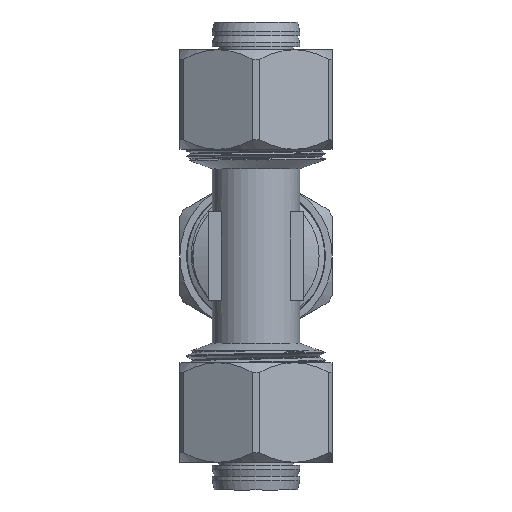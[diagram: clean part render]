
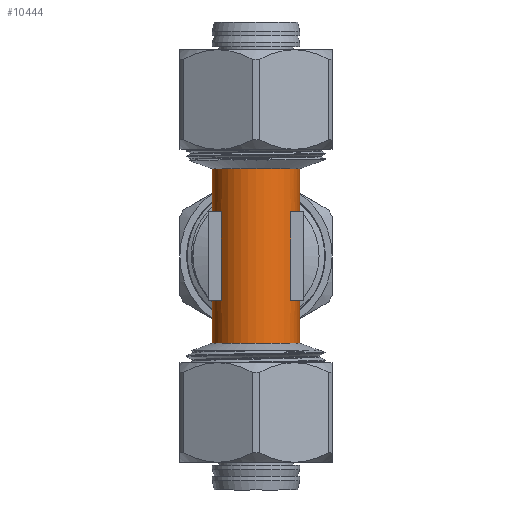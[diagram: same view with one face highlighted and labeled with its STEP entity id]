
A CAD part, front view. The second image highlights one B-rep face of the part: STEP entity #10444.
In plain terms, the highlighted cylindrical face has radius 7.9 mm (diameter 15.8 mm), a full revolution.
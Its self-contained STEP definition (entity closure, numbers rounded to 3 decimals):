
#1103=ELLIPSE('',#11165,11.172,7.9);
#1104=ELLIPSE('',#11166,11.172,7.9);
#1105=ELLIPSE('',#11167,11.172,7.9);
#1106=ELLIPSE('',#11168,11.172,7.9);
#1323=CYLINDRICAL_SURFACE('',#11183,7.9);
#1499=FACE_OUTER_BOUND('',#2108,.T.);
#2108=EDGE_LOOP('',(#7460,#7461,#7462,#7463,#7464,#7465,#7466,#7467,#7468,
#7469,#7470,#7471,#7472,#7473,#7474,#7475,#7476,#7477,#7478,#7479,#7480,
#7481,#7482));
#2791=LINE('',#14099,#3453);
#2796=LINE('',#14111,#3458);
#2805=LINE('',#14133,#3467);
#2808=LINE('',#14139,#3470);
#2815=LINE('',#14158,#3477);
#2818=LINE('',#14166,#3480);
#2839=LINE('',#14247,#3501);
#2840=LINE('',#14248,#3502);
#3453=VECTOR('',#11958,10.);
#3458=VECTOR('',#11969,10.);
#3467=VECTOR('',#11990,10.);
#3470=VECTOR('',#11995,10.);
#3477=VECTOR('',#12014,10.);
#3480=VECTOR('',#12021,10.);
#3501=VECTOR('',#12114,7.9);
#3502=VECTOR('',#12115,7.9);
#4012=CIRCLE('',#11067,7.9);
#4013=CIRCLE('',#11068,7.9);
#4018=CIRCLE('',#11074,7.9);
#4034=CIRCLE('',#11134,7.9);
#4035=CIRCLE('',#11136,7.9);
#4036=CIRCLE('',#11142,7.9);
#4037=CIRCLE('',#11144,7.9);
#4040=CIRCLE('',#11150,7.9);
#4041=CIRCLE('',#11152,7.9);
#4293=VERTEX_POINT('',#13689);
#4294=VERTEX_POINT('',#13690);
#4299=VERTEX_POINT('',#13703);
#4393=VERTEX_POINT('',#14097);
#4394=VERTEX_POINT('',#14098);
#4397=VERTEX_POINT('',#14109);
#4398=VERTEX_POINT('',#14110);
#4401=VERTEX_POINT('',#14118);
#4403=VERTEX_POINT('',#14124);
#4405=VERTEX_POINT('',#14132);
#4407=VERTEX_POINT('',#14138);
#4409=VERTEX_POINT('',#14145);
#4411=VERTEX_POINT('',#14151);
#4413=VERTEX_POINT('',#14157);
#4416=VERTEX_POINT('',#14165);
#4419=VERTEX_POINT('',#14173);
#4422=VERTEX_POINT('',#14181);
#4431=VERTEX_POINT('',#14214);
#4432=VERTEX_POINT('',#14217);
#5398=EDGE_CURVE('',#4293,#4294,#4012,.T.);
#5399=EDGE_CURVE('',#4294,#4293,#4013,.T.);
#5406=EDGE_CURVE('',#4299,#4299,#4018,.T.);
#5544=EDGE_CURVE('',#4393,#4394,#2791,.T.);
#5550=EDGE_CURVE('',#4397,#4398,#2796,.T.);
#5554=EDGE_CURVE('',#4401,#4393,#4034,.T.);
#5557=EDGE_CURVE('',#4398,#4403,#4035,.T.);
#5561=EDGE_CURVE('',#4405,#4401,#2805,.T.);
#5564=EDGE_CURVE('',#4403,#4407,#2808,.T.);
#5567=EDGE_CURVE('',#4409,#4405,#4036,.T.);
#5570=EDGE_CURVE('',#4407,#4411,#4037,.T.);
#5573=EDGE_CURVE('',#4413,#4409,#2815,.T.);
#5577=EDGE_CURVE('',#4411,#4416,#2818,.T.);
#5581=EDGE_CURVE('',#4419,#4397,#4040,.T.);
#5585=EDGE_CURVE('',#4394,#4422,#4041,.T.);
#5602=EDGE_CURVE('',#4416,#4431,#1103,.T.);
#5603=EDGE_CURVE('',#4432,#4419,#1104,.T.);
#5604=EDGE_CURVE('',#4422,#4432,#1105,.T.);
#5605=EDGE_CURVE('',#4431,#4413,#1106,.T.);
#5617=EDGE_CURVE('',#4299,#4431,#2839,.T.);
#5618=EDGE_CURVE('',#4432,#4294,#2840,.T.);
#7460=ORIENTED_EDGE('',*,*,#5406,.F.);
#7461=ORIENTED_EDGE('',*,*,#5617,.T.);
#7462=ORIENTED_EDGE('',*,*,#5605,.T.);
#7463=ORIENTED_EDGE('',*,*,#5573,.T.);
#7464=ORIENTED_EDGE('',*,*,#5567,.T.);
#7465=ORIENTED_EDGE('',*,*,#5561,.T.);
#7466=ORIENTED_EDGE('',*,*,#5554,.T.);
#7467=ORIENTED_EDGE('',*,*,#5544,.T.);
#7468=ORIENTED_EDGE('',*,*,#5585,.T.);
#7469=ORIENTED_EDGE('',*,*,#5604,.T.);
#7470=ORIENTED_EDGE('',*,*,#5618,.T.);
#7471=ORIENTED_EDGE('',*,*,#5399,.T.);
#7472=ORIENTED_EDGE('',*,*,#5398,.T.);
#7473=ORIENTED_EDGE('',*,*,#5618,.F.);
#7474=ORIENTED_EDGE('',*,*,#5603,.T.);
#7475=ORIENTED_EDGE('',*,*,#5581,.T.);
#7476=ORIENTED_EDGE('',*,*,#5550,.T.);
#7477=ORIENTED_EDGE('',*,*,#5557,.T.);
#7478=ORIENTED_EDGE('',*,*,#5564,.T.);
#7479=ORIENTED_EDGE('',*,*,#5570,.T.);
#7480=ORIENTED_EDGE('',*,*,#5577,.T.);
#7481=ORIENTED_EDGE('',*,*,#5602,.T.);
#7482=ORIENTED_EDGE('',*,*,#5617,.F.);
#10444=ADVANCED_FACE('',(#1499),#1323,.T.);
#11067=AXIS2_PLACEMENT_3D('',#13691,#11727,#11728);
#11068=AXIS2_PLACEMENT_3D('',#13692,#11729,#11730);
#11074=AXIS2_PLACEMENT_3D('',#13705,#11743,#11744);
#11134=AXIS2_PLACEMENT_3D('',#14119,#11975,#11976);
#11136=AXIS2_PLACEMENT_3D('',#14125,#11981,#11982);
#11142=AXIS2_PLACEMENT_3D('',#14146,#12002,#12003);
#11144=AXIS2_PLACEMENT_3D('',#14152,#12008,#12009);
#11150=AXIS2_PLACEMENT_3D('',#14174,#12028,#12029);
#11152=AXIS2_PLACEMENT_3D('',#14182,#12035,#12036);
#11165=AXIS2_PLACEMENT_3D('',#14216,#12073,#12074);
#11166=AXIS2_PLACEMENT_3D('',#14218,#12075,#12076);
#11167=AXIS2_PLACEMENT_3D('',#14219,#12077,#12078);
#11168=AXIS2_PLACEMENT_3D('',#14220,#12079,#12080);
#11183=AXIS2_PLACEMENT_3D('',#14246,#12112,#12113);
#11727=DIRECTION('center_axis',(0.,0.,1.));
#11728=DIRECTION('ref_axis',(1.,0.,0.));
#11729=DIRECTION('center_axis',(0.,0.,1.));
#11730=DIRECTION('ref_axis',(1.,0.,0.));
#11743=DIRECTION('center_axis',(0.,0.,1.));
#11744=DIRECTION('ref_axis',(1.,0.,0.));
#11958=DIRECTION('',(0.,0.,1.));
#11969=DIRECTION('',(0.,0.,-1.));
#11975=DIRECTION('center_axis',(0.,0.,-1.));
#11976=DIRECTION('ref_axis',(0.,-1.,0.));
#11981=DIRECTION('center_axis',(0.,0.,-1.));
#11982=DIRECTION('ref_axis',(0.,-1.,0.));
#11990=DIRECTION('',(0.,0.,-1.));
#11995=DIRECTION('',(0.,0.,1.));
#12002=DIRECTION('center_axis',(0.,0.,1.));
#12003=DIRECTION('ref_axis',(0.,-1.,0.));
#12008=DIRECTION('center_axis',(0.,0.,1.));
#12009=DIRECTION('ref_axis',(0.,-1.,0.));
#12014=DIRECTION('',(0.,0.,1.));
#12021=DIRECTION('',(0.,0.,-1.));
#12028=DIRECTION('center_axis',(0.,0.,-1.));
#12029=DIRECTION('ref_axis',(0.,-1.,0.));
#12035=DIRECTION('center_axis',(0.,0.,-1.));
#12036=DIRECTION('ref_axis',(0.,-1.,0.));
#12073=DIRECTION('center_axis',(0.,-0.707,0.707));
#12074=DIRECTION('ref_axis',(0.,-0.707,-0.707));
#12075=DIRECTION('center_axis',(0.,-0.707,-0.707));
#12076=DIRECTION('ref_axis',(0.,0.707,-0.707));
#12077=DIRECTION('center_axis',(0.,-0.707,-0.707));
#12078=DIRECTION('ref_axis',(0.,0.707,-0.707));
#12079=DIRECTION('center_axis',(0.,-0.707,0.707));
#12080=DIRECTION('ref_axis',(0.,-0.707,-0.707));
#12112=DIRECTION('center_axis',(0.,0.,1.));
#12113=DIRECTION('ref_axis',(0.,-1.,0.));
#12114=DIRECTION('',(0.,0.,-1.));
#12115=DIRECTION('',(0.,0.,-1.));
#13689=CARTESIAN_POINT('',(0.,-7.9,-15.75));
#13690=CARTESIAN_POINT('',(0.,7.9,-15.75));
#13691=CARTESIAN_POINT('Origin',(0.,0.,-15.75));
#13692=CARTESIAN_POINT('Origin',(0.,0.,-15.75));
#13703=CARTESIAN_POINT('',(0.,7.9,15.75));
#13705=CARTESIAN_POINT('Origin',(0.,0.,15.75));
#14097=CARTESIAN_POINT('',(-6.323,4.736,-8.022));
#14098=CARTESIAN_POINT('',(-6.323,4.736,-4.772));
#14099=CARTESIAN_POINT('',(-6.323,4.736,-7.875));
#14109=CARTESIAN_POINT('',(6.323,4.736,-4.772));
#14110=CARTESIAN_POINT('',(6.323,4.736,-8.022));
#14111=CARTESIAN_POINT('',(6.323,4.736,-7.875));
#14118=CARTESIAN_POINT('',(-6.302,-4.764,-8.022));
#14119=CARTESIAN_POINT('Origin',(0.,0.,-8.022));
#14124=CARTESIAN_POINT('',(6.302,-4.764,-8.022));
#14125=CARTESIAN_POINT('Origin',(0.,0.,-8.022));
#14132=CARTESIAN_POINT('',(-6.302,-4.764,7.978));
#14133=CARTESIAN_POINT('',(-6.302,-4.764,-7.875));
#14138=CARTESIAN_POINT('',(6.302,-4.764,7.978));
#14139=CARTESIAN_POINT('',(6.302,-4.764,-7.875));
#14145=CARTESIAN_POINT('',(-6.323,4.736,7.978));
#14146=CARTESIAN_POINT('Origin',(0.,0.,7.978));
#14151=CARTESIAN_POINT('',(6.323,4.736,7.978));
#14152=CARTESIAN_POINT('Origin',(0.,0.,7.978));
#14157=CARTESIAN_POINT('',(-6.323,4.736,4.736));
#14158=CARTESIAN_POINT('',(-6.323,4.736,-7.875));
#14165=CARTESIAN_POINT('',(6.323,4.736,4.736));
#14166=CARTESIAN_POINT('',(6.323,4.736,-7.875));
#14173=CARTESIAN_POINT('',(6.296,4.772,-4.772));
#14174=CARTESIAN_POINT('Origin',(0.,0.,-4.772));
#14181=CARTESIAN_POINT('',(-6.296,4.772,-4.772));
#14182=CARTESIAN_POINT('Origin',(0.,0.,-4.772));
#14214=CARTESIAN_POINT('',(0.,7.9,7.9));
#14216=CARTESIAN_POINT('Origin',(0.,0.,0.));
#14217=CARTESIAN_POINT('',(0.,7.9,-7.9));
#14218=CARTESIAN_POINT('Origin',(0.,0.,0.));
#14219=CARTESIAN_POINT('Origin',(0.,0.,0.));
#14220=CARTESIAN_POINT('Origin',(0.,0.,0.));
#14246=CARTESIAN_POINT('Origin',(0.,0.,-7.875));
#14247=CARTESIAN_POINT('',(0.,7.9,-7.875));
#14248=CARTESIAN_POINT('',(0.,7.9,-7.875));
